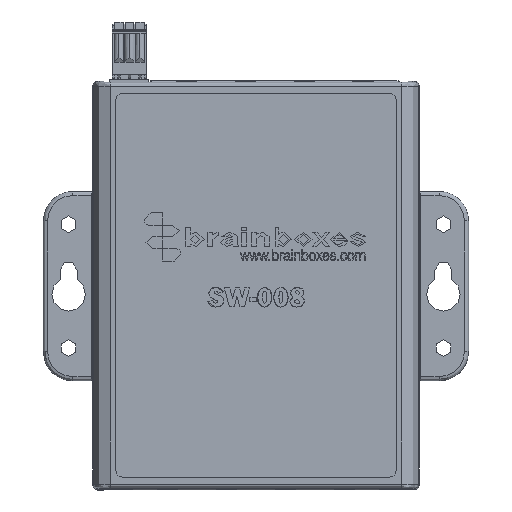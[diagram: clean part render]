
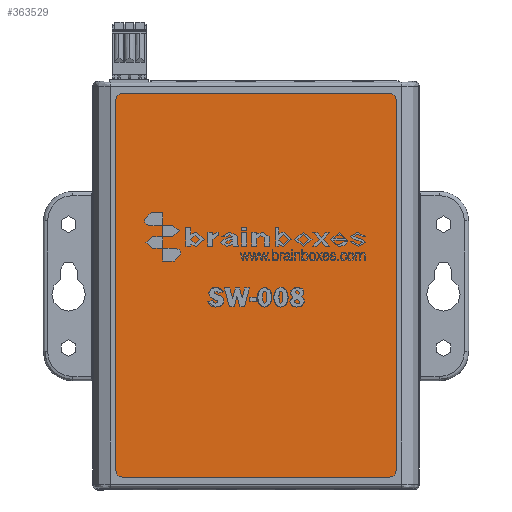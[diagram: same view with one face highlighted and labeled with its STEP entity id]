
A CAD part, top view. The second image highlights one B-rep face of the part: STEP entity #363529.
In plain terms, the highlighted planar face has unit normal (0, 0, 1).
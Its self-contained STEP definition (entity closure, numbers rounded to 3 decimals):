
#363338 = VERTEX_POINT('',#363339);
#363339 = CARTESIAN_POINT('',(-33.25,-45.07,20.1));
#363345 = EDGE_CURVE('',#363338,#363346,#363348,.T.);
#363346 = VERTEX_POINT('',#363347);
#363347 = CARTESIAN_POINT('',(-31.75,-46.57,20.1));
#363348 = CIRCLE('',#363349,1.5);
#363349 = AXIS2_PLACEMENT_3D('',#363350,#363351,#363352);
#363350 = CARTESIAN_POINT('',(-31.75,-45.07,20.1));
#363351 = DIRECTION('',(0.,0.,1.));
#363352 = DIRECTION('',(0.,-1.,0.));
#363371 = EDGE_CURVE('',#363372,#363338,#363374,.T.);
#363372 = VERTEX_POINT('',#363373);
#363373 = CARTESIAN_POINT('',(-33.25,43.03,20.1));
#363374 = LINE('',#363375,#363376);
#363375 = CARTESIAN_POINT('',(-33.25,43.03,20.1));
#363376 = VECTOR('',#363377,1.);
#363377 = DIRECTION('',(0.,-1.,0.));
#363394 = VERTEX_POINT('',#363395);
#363395 = CARTESIAN_POINT('',(-31.75,44.53,20.1));
#363401 = EDGE_CURVE('',#363394,#363372,#363402,.T.);
#363402 = CIRCLE('',#363403,1.5);
#363403 = AXIS2_PLACEMENT_3D('',#363404,#363405,#363406);
#363404 = CARTESIAN_POINT('',(-31.75,43.03,20.1));
#363405 = DIRECTION('',(0.,0.,1.));
#363406 = DIRECTION('',(0.,1.,0.));
#363420 = EDGE_CURVE('',#363421,#363394,#363423,.T.);
#363421 = VERTEX_POINT('',#363422);
#363422 = CARTESIAN_POINT('',(31.75,44.53,20.1));
#363423 = LINE('',#363424,#363425);
#363424 = CARTESIAN_POINT('',(-31.75,44.53,20.1));
#363425 = VECTOR('',#363426,1.);
#363426 = DIRECTION('',(-1.,-0.,0.));
#363443 = VERTEX_POINT('',#363444);
#363444 = CARTESIAN_POINT('',(33.25,43.03,20.1));
#363450 = EDGE_CURVE('',#363443,#363421,#363451,.T.);
#363451 = CIRCLE('',#363452,1.5);
#363452 = AXIS2_PLACEMENT_3D('',#363453,#363454,#363455);
#363453 = CARTESIAN_POINT('',(31.75,43.03,20.1));
#363454 = DIRECTION('',(0.,0.,1.));
#363455 = DIRECTION('',(0.,-1.,0.));
#363469 = EDGE_CURVE('',#363470,#363443,#363472,.T.);
#363470 = VERTEX_POINT('',#363471);
#363471 = CARTESIAN_POINT('',(33.25,-45.07,20.1));
#363472 = LINE('',#363473,#363474);
#363473 = CARTESIAN_POINT('',(33.25,43.03,20.1));
#363474 = VECTOR('',#363475,1.);
#363475 = DIRECTION('',(0.,1.,0.));
#363492 = VERTEX_POINT('',#363493);
#363493 = CARTESIAN_POINT('',(31.75,-46.57,20.1));
#363499 = EDGE_CURVE('',#363492,#363470,#363500,.T.);
#363500 = CIRCLE('',#363501,1.5);
#363501 = AXIS2_PLACEMENT_3D('',#363502,#363503,#363504);
#363502 = CARTESIAN_POINT('',(31.75,-45.07,20.1));
#363503 = DIRECTION('',(0.,0.,1.));
#363504 = DIRECTION('',(0.,-1.,0.));
#363518 = EDGE_CURVE('',#363346,#363492,#363519,.T.);
#363519 = LINE('',#363520,#363521);
#363520 = CARTESIAN_POINT('',(-31.75,-46.57,20.1));
#363521 = VECTOR('',#363522,1.);
#363522 = DIRECTION('',(1.,0.,0.));
#363529 = ADVANCED_FACE('',(#363530),#363540,.T.);
#363530 = FACE_BOUND('',#363531,.T.);
#363531 = EDGE_LOOP('',(#363532,#363533,#363534,#363535,#363536,#363537,
    #363538,#363539));
#363532 = ORIENTED_EDGE('',*,*,#363345,.T.);
#363533 = ORIENTED_EDGE('',*,*,#363518,.T.);
#363534 = ORIENTED_EDGE('',*,*,#363499,.T.);
#363535 = ORIENTED_EDGE('',*,*,#363469,.T.);
#363536 = ORIENTED_EDGE('',*,*,#363450,.T.);
#363537 = ORIENTED_EDGE('',*,*,#363420,.T.);
#363538 = ORIENTED_EDGE('',*,*,#363401,.T.);
#363539 = ORIENTED_EDGE('',*,*,#363371,.T.);
#363540 = PLANE('',#363541);
#363541 = AXIS2_PLACEMENT_3D('',#363542,#363543,#363544);
#363542 = CARTESIAN_POINT('',(-31.75,-45.07,20.1));
#363543 = DIRECTION('',(0.,0.,1.));
#363544 = DIRECTION('',(1.,0.,0.));
